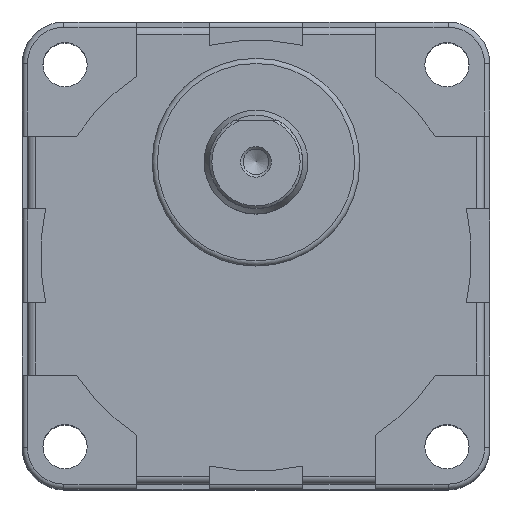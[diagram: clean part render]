
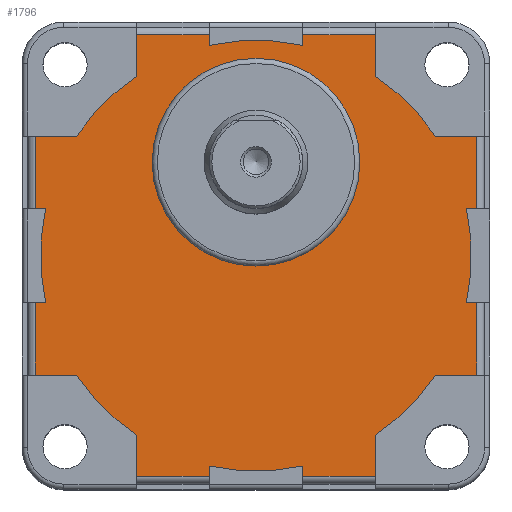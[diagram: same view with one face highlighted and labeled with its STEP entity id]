
A CAD part, top view. The second image highlights one B-rep face of the part: STEP entity #1796.
In plain terms, the highlighted planar face has unit normal (0, 0, 1).
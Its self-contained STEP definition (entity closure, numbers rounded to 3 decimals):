
#45=FACE_BOUND('',#334,.T.);
#120=CIRCLE('',#1923,20.);
#125=CIRCLE('',#1933,41.5);
#126=CIRCLE('',#1934,41.5);
#127=CIRCLE('',#1935,41.5);
#128=CIRCLE('',#1936,41.5);
#129=CIRCLE('',#1937,41.5);
#130=CIRCLE('',#1938,41.5);
#131=CIRCLE('',#1939,41.5);
#132=CIRCLE('',#1940,41.5);
#210=FACE_OUTER_BOUND('',#333,.T.);
#333=EDGE_LOOP('',(#1270,#1271,#1272,#1273,#1274,#1275,#1276,#1277,#1278,
#1279,#1280,#1281,#1282,#1283,#1284,#1285,#1286,#1287,#1288,#1289,#1290,
#1291,#1292,#1293,#1294,#1295,#1296,#1297,#1298,#1299,#1300,#1301));
#334=EDGE_LOOP('',(#1302));
#432=LINE('',#2738,#599);
#436=LINE('',#2750,#603);
#438=LINE('',#2756,#605);
#439=LINE('',#2760,#606);
#440=LINE('',#2762,#607);
#441=LINE('',#2764,#608);
#442=LINE('',#2768,#609);
#443=LINE('',#2770,#610);
#444=LINE('',#2772,#611);
#445=LINE('',#2776,#612);
#446=LINE('',#2778,#613);
#447=LINE('',#2780,#614);
#448=LINE('',#2784,#615);
#449=LINE('',#2786,#616);
#450=LINE('',#2788,#617);
#451=LINE('',#2792,#618);
#452=LINE('',#2794,#619);
#453=LINE('',#2796,#620);
#454=LINE('',#2800,#621);
#455=LINE('',#2802,#622);
#456=LINE('',#2804,#623);
#457=LINE('',#2807,#624);
#458=LINE('',#2809,#625);
#459=LINE('',#2812,#626);
#599=VECTOR('',#2184,14.);
#603=VECTOR('',#2194,14.);
#605=VECTOR('',#2200,7.957);
#606=VECTOR('',#2203,7.957);
#607=VECTOR('',#2204,14.);
#608=VECTOR('',#2205,1.988);
#609=VECTOR('',#2208,1.988);
#610=VECTOR('',#2209,14.);
#611=VECTOR('',#2210,7.957);
#612=VECTOR('',#2213,7.957);
#613=VECTOR('',#2214,14.);
#614=VECTOR('',#2215,1.988);
#615=VECTOR('',#2218,1.988);
#616=VECTOR('',#2219,14.);
#617=VECTOR('',#2220,7.957);
#618=VECTOR('',#2223,7.957);
#619=VECTOR('',#2224,14.);
#620=VECTOR('',#2225,1.988);
#621=VECTOR('',#2228,1.988);
#622=VECTOR('',#2229,14.);
#623=VECTOR('',#2230,7.957);
#624=VECTOR('',#2233,7.957);
#625=VECTOR('',#2234,1.988);
#626=VECTOR('',#2237,1.988);
#791=VERTEX_POINT('',#2727);
#792=VERTEX_POINT('',#2731);
#795=VERTEX_POINT('',#2736);
#799=VERTEX_POINT('',#2747);
#800=VERTEX_POINT('',#2749);
#802=VERTEX_POINT('',#2755);
#803=VERTEX_POINT('',#2757);
#804=VERTEX_POINT('',#2759);
#805=VERTEX_POINT('',#2761);
#806=VERTEX_POINT('',#2763);
#807=VERTEX_POINT('',#2765);
#808=VERTEX_POINT('',#2767);
#809=VERTEX_POINT('',#2769);
#810=VERTEX_POINT('',#2771);
#811=VERTEX_POINT('',#2773);
#812=VERTEX_POINT('',#2775);
#813=VERTEX_POINT('',#2777);
#814=VERTEX_POINT('',#2779);
#815=VERTEX_POINT('',#2781);
#816=VERTEX_POINT('',#2783);
#817=VERTEX_POINT('',#2785);
#818=VERTEX_POINT('',#2787);
#819=VERTEX_POINT('',#2789);
#820=VERTEX_POINT('',#2791);
#821=VERTEX_POINT('',#2793);
#822=VERTEX_POINT('',#2795);
#823=VERTEX_POINT('',#2797);
#824=VERTEX_POINT('',#2799);
#825=VERTEX_POINT('',#2801);
#826=VERTEX_POINT('',#2803);
#827=VERTEX_POINT('',#2805);
#828=VERTEX_POINT('',#2808);
#829=VERTEX_POINT('',#2810);
#973=EDGE_CURVE('',#791,#791,#120,.T.);
#977=EDGE_CURVE('',#795,#792,#432,.T.);
#982=EDGE_CURVE('',#799,#800,#436,.T.);
#985=EDGE_CURVE('',#795,#802,#438,.T.);
#986=EDGE_CURVE('',#803,#802,#125,.T.);
#987=EDGE_CURVE('',#804,#803,#439,.T.);
#988=EDGE_CURVE('',#805,#804,#440,.T.);
#989=EDGE_CURVE('',#806,#805,#441,.T.);
#990=EDGE_CURVE('',#807,#806,#126,.T.);
#991=EDGE_CURVE('',#807,#808,#442,.T.);
#992=EDGE_CURVE('',#809,#808,#443,.T.);
#993=EDGE_CURVE('',#809,#810,#444,.T.);
#994=EDGE_CURVE('',#811,#810,#127,.T.);
#995=EDGE_CURVE('',#812,#811,#445,.T.);
#996=EDGE_CURVE('',#813,#812,#446,.T.);
#997=EDGE_CURVE('',#814,#813,#447,.T.);
#998=EDGE_CURVE('',#815,#814,#128,.T.);
#999=EDGE_CURVE('',#815,#816,#448,.T.);
#1000=EDGE_CURVE('',#817,#816,#449,.T.);
#1001=EDGE_CURVE('',#817,#818,#450,.T.);
#1002=EDGE_CURVE('',#819,#818,#129,.T.);
#1003=EDGE_CURVE('',#820,#819,#451,.T.);
#1004=EDGE_CURVE('',#821,#820,#452,.T.);
#1005=EDGE_CURVE('',#822,#821,#453,.T.);
#1006=EDGE_CURVE('',#823,#822,#130,.T.);
#1007=EDGE_CURVE('',#823,#824,#454,.T.);
#1008=EDGE_CURVE('',#825,#824,#455,.T.);
#1009=EDGE_CURVE('',#825,#826,#456,.T.);
#1010=EDGE_CURVE('',#827,#826,#131,.T.);
#1011=EDGE_CURVE('',#800,#827,#457,.T.);
#1012=EDGE_CURVE('',#828,#799,#458,.T.);
#1013=EDGE_CURVE('',#829,#828,#132,.T.);
#1014=EDGE_CURVE('',#829,#792,#459,.T.);
#1270=ORIENTED_EDGE('',*,*,#977,.F.);
#1271=ORIENTED_EDGE('',*,*,#985,.T.);
#1272=ORIENTED_EDGE('',*,*,#986,.F.);
#1273=ORIENTED_EDGE('',*,*,#987,.F.);
#1274=ORIENTED_EDGE('',*,*,#988,.F.);
#1275=ORIENTED_EDGE('',*,*,#989,.F.);
#1276=ORIENTED_EDGE('',*,*,#990,.F.);
#1277=ORIENTED_EDGE('',*,*,#991,.T.);
#1278=ORIENTED_EDGE('',*,*,#992,.F.);
#1279=ORIENTED_EDGE('',*,*,#993,.T.);
#1280=ORIENTED_EDGE('',*,*,#994,.F.);
#1281=ORIENTED_EDGE('',*,*,#995,.F.);
#1282=ORIENTED_EDGE('',*,*,#996,.F.);
#1283=ORIENTED_EDGE('',*,*,#997,.F.);
#1284=ORIENTED_EDGE('',*,*,#998,.F.);
#1285=ORIENTED_EDGE('',*,*,#999,.T.);
#1286=ORIENTED_EDGE('',*,*,#1000,.F.);
#1287=ORIENTED_EDGE('',*,*,#1001,.T.);
#1288=ORIENTED_EDGE('',*,*,#1002,.F.);
#1289=ORIENTED_EDGE('',*,*,#1003,.F.);
#1290=ORIENTED_EDGE('',*,*,#1004,.F.);
#1291=ORIENTED_EDGE('',*,*,#1005,.F.);
#1292=ORIENTED_EDGE('',*,*,#1006,.F.);
#1293=ORIENTED_EDGE('',*,*,#1007,.T.);
#1294=ORIENTED_EDGE('',*,*,#1008,.F.);
#1295=ORIENTED_EDGE('',*,*,#1009,.T.);
#1296=ORIENTED_EDGE('',*,*,#1010,.F.);
#1297=ORIENTED_EDGE('',*,*,#1011,.F.);
#1298=ORIENTED_EDGE('',*,*,#982,.F.);
#1299=ORIENTED_EDGE('',*,*,#1012,.F.);
#1300=ORIENTED_EDGE('',*,*,#1013,.F.);
#1301=ORIENTED_EDGE('',*,*,#1014,.T.);
#1302=ORIENTED_EDGE('',*,*,#973,.F.);
#1729=PLANE('',#1932);
#1796=ADVANCED_FACE('',(#210,#45),#1729,.T.);
#1923=AXIS2_PLACEMENT_3D('',#2728,#2173,#2174);
#1932=AXIS2_PLACEMENT_3D('',#2754,#2198,#2199);
#1933=AXIS2_PLACEMENT_3D('',#2758,#2201,#2202);
#1934=AXIS2_PLACEMENT_3D('',#2766,#2206,#2207);
#1935=AXIS2_PLACEMENT_3D('',#2774,#2211,#2212);
#1936=AXIS2_PLACEMENT_3D('',#2782,#2216,#2217);
#1937=AXIS2_PLACEMENT_3D('',#2790,#2221,#2222);
#1938=AXIS2_PLACEMENT_3D('',#2798,#2226,#2227);
#1939=AXIS2_PLACEMENT_3D('',#2806,#2231,#2232);
#1940=AXIS2_PLACEMENT_3D('',#2811,#2235,#2236);
#2173=DIRECTION('center_axis',(0.,0.,1.));
#2174=DIRECTION('ref_axis',(-1.,0.,0.));
#2184=DIRECTION('',(0.,-1.,0.));
#2194=DIRECTION('',(0.,-1.,0.));
#2198=DIRECTION('center_axis',(0.,0.,1.));
#2199=DIRECTION('ref_axis',(1.,0.,0.));
#2200=DIRECTION('',(-1.,0.,0.));
#2201=DIRECTION('center_axis',(0.,0.,-1.));
#2202=DIRECTION('ref_axis',(-1.,0.,0.));
#2203=DIRECTION('',(0.,-1.,0.));
#2204=DIRECTION('',(1.,0.,0.));
#2205=DIRECTION('',(0.,1.,0.));
#2206=DIRECTION('center_axis',(0.,0.,-1.));
#2207=DIRECTION('ref_axis',(-1.,0.,0.));
#2208=DIRECTION('',(0.,1.,0.));
#2209=DIRECTION('',(1.,0.,0.));
#2210=DIRECTION('',(0.,-1.,0.));
#2211=DIRECTION('center_axis',(0.,0.,-1.));
#2212=DIRECTION('ref_axis',(-1.,0.,0.));
#2213=DIRECTION('',(1.,0.,0.));
#2214=DIRECTION('',(0.,1.,0.));
#2215=DIRECTION('',(-1.,0.,0.));
#2216=DIRECTION('center_axis',(0.,0.,-1.));
#2217=DIRECTION('ref_axis',(-1.,0.,0.));
#2218=DIRECTION('',(-1.,0.,0.));
#2219=DIRECTION('',(0.,1.,0.));
#2220=DIRECTION('',(1.,0.,0.));
#2221=DIRECTION('center_axis',(0.,0.,-1.));
#2222=DIRECTION('ref_axis',(-1.,0.,0.));
#2223=DIRECTION('',(0.,1.,0.));
#2224=DIRECTION('',(-1.,0.,0.));
#2225=DIRECTION('',(0.,-1.,0.));
#2226=DIRECTION('center_axis',(0.,0.,-1.));
#2227=DIRECTION('ref_axis',(-1.,0.,0.));
#2228=DIRECTION('',(0.,-1.,0.));
#2229=DIRECTION('',(-1.,0.,0.));
#2230=DIRECTION('',(0.,1.,0.));
#2231=DIRECTION('center_axis',(0.,0.,-1.));
#2232=DIRECTION('ref_axis',(-1.,0.,0.));
#2233=DIRECTION('',(-1.,0.,0.));
#2234=DIRECTION('',(1.,0.,0.));
#2235=DIRECTION('center_axis',(0.,0.,-1.));
#2236=DIRECTION('ref_axis',(-1.,0.,0.));
#2237=DIRECTION('',(1.,0.,0.));
#2727=CARTESIAN_POINT('',(20.,18.,69.2));
#2728=CARTESIAN_POINT('Origin',(0.,18.,69.2));
#2731=CARTESIAN_POINT('',(42.5,9.,69.2));
#2736=CARTESIAN_POINT('',(42.5,23.,69.2));
#2738=CARTESIAN_POINT('',(42.5,11.5,69.2));
#2747=CARTESIAN_POINT('',(42.5,-9.,69.2));
#2749=CARTESIAN_POINT('',(42.5,-23.,69.2));
#2750=CARTESIAN_POINT('',(42.5,-11.5,69.2));
#2754=CARTESIAN_POINT('Origin',(0.,0.,
69.2));
#2755=CARTESIAN_POINT('',(34.543,23.,69.2));
#2756=CARTESIAN_POINT('',(34.543,23.,69.2));
#2757=CARTESIAN_POINT('',(23.,34.543,69.2));
#2758=CARTESIAN_POINT('Origin',(0.,0.,69.2));
#2759=CARTESIAN_POINT('',(23.,42.5,69.2));
#2760=CARTESIAN_POINT('',(23.,34.543,69.2));
#2761=CARTESIAN_POINT('',(9.,42.5,69.2));
#2762=CARTESIAN_POINT('',(11.5,42.5,69.2));
#2763=CARTESIAN_POINT('',(9.,40.512,69.2));
#2764=CARTESIAN_POINT('',(9.,45.,69.2));
#2765=CARTESIAN_POINT('',(-9.,40.512,69.2));
#2766=CARTESIAN_POINT('Origin',(0.,0.,69.2));
#2767=CARTESIAN_POINT('',(-9.,42.5,69.2));
#2768=CARTESIAN_POINT('',(-9.,45.,69.2));
#2769=CARTESIAN_POINT('',(-23.,42.5,69.2));
#2770=CARTESIAN_POINT('',(-11.5,42.5,69.2));
#2771=CARTESIAN_POINT('',(-23.,34.543,69.2));
#2772=CARTESIAN_POINT('',(-23.,34.543,69.2));
#2773=CARTESIAN_POINT('',(-34.543,23.,69.2));
#2774=CARTESIAN_POINT('Origin',(0.,0.,69.2));
#2775=CARTESIAN_POINT('',(-42.5,23.,69.2));
#2776=CARTESIAN_POINT('',(-34.543,23.,69.2));
#2777=CARTESIAN_POINT('',(-42.5,9.,69.2));
#2778=CARTESIAN_POINT('',(-42.5,11.5,69.2));
#2779=CARTESIAN_POINT('',(-40.512,9.,69.2));
#2780=CARTESIAN_POINT('',(-45.,9.,69.2));
#2781=CARTESIAN_POINT('',(-40.512,-9.,69.2));
#2782=CARTESIAN_POINT('Origin',(0.,0.,69.2));
#2783=CARTESIAN_POINT('',(-42.5,-9.,69.2));
#2784=CARTESIAN_POINT('',(-45.,-9.,69.2));
#2785=CARTESIAN_POINT('',(-42.5,-23.,69.2));
#2786=CARTESIAN_POINT('',(-42.5,-11.5,69.2));
#2787=CARTESIAN_POINT('',(-34.543,-23.,69.2));
#2788=CARTESIAN_POINT('',(-34.543,-23.,69.2));
#2789=CARTESIAN_POINT('',(-23.,-34.543,69.2));
#2790=CARTESIAN_POINT('Origin',(0.,0.,69.2));
#2791=CARTESIAN_POINT('',(-23.,-42.5,69.2));
#2792=CARTESIAN_POINT('',(-23.,-34.543,69.2));
#2793=CARTESIAN_POINT('',(-9.,-42.5,69.2));
#2794=CARTESIAN_POINT('',(-11.5,-42.5,69.2));
#2795=CARTESIAN_POINT('',(-9.,-40.512,69.2));
#2796=CARTESIAN_POINT('',(-9.,-45.,69.2));
#2797=CARTESIAN_POINT('',(9.,-40.512,69.2));
#2798=CARTESIAN_POINT('Origin',(0.,0.,69.2));
#2799=CARTESIAN_POINT('',(9.,-42.5,69.2));
#2800=CARTESIAN_POINT('',(9.,-45.,69.2));
#2801=CARTESIAN_POINT('',(23.,-42.5,69.2));
#2802=CARTESIAN_POINT('',(11.5,-42.5,69.2));
#2803=CARTESIAN_POINT('',(23.,-34.543,69.2));
#2804=CARTESIAN_POINT('',(23.,-34.543,69.2));
#2805=CARTESIAN_POINT('',(34.543,-23.,69.2));
#2806=CARTESIAN_POINT('Origin',(0.,0.,69.2));
#2807=CARTESIAN_POINT('',(34.543,-23.,69.2));
#2808=CARTESIAN_POINT('',(40.512,-9.,69.2));
#2809=CARTESIAN_POINT('',(45.,-9.,69.2));
#2810=CARTESIAN_POINT('',(40.512,9.,69.2));
#2811=CARTESIAN_POINT('Origin',(0.,0.,69.2));
#2812=CARTESIAN_POINT('',(45.,9.,69.2));
